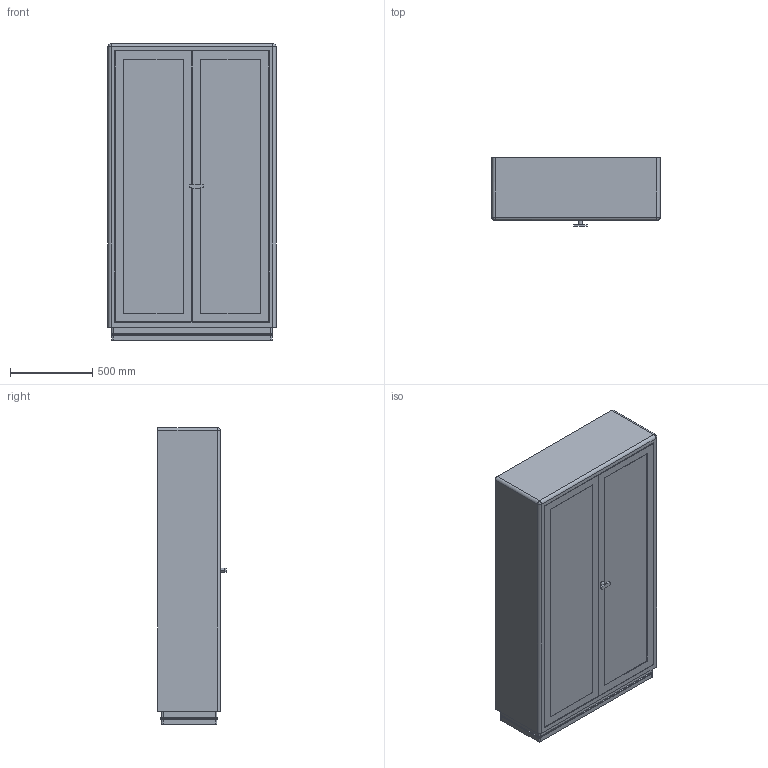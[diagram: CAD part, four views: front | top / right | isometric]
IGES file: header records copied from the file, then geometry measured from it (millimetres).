
Start section: Comment
Global section: file name: SB424-2.igs; native system:  By UGS Corp.; preprocessor: XPlus GENERIC/IGES 3.0; author: Author; organization: Title; date: 20140519.130211; units: inch
Bounding box: 1020 x 415 x 1800 mm (x, y, z)
Surface area: 6019941.5 mm2 (no closed solid volume)
Topology: 0 solids, 0 shells, 92 faces, 420 edges, 418 vertices
Faces by surface type: bspline 92
